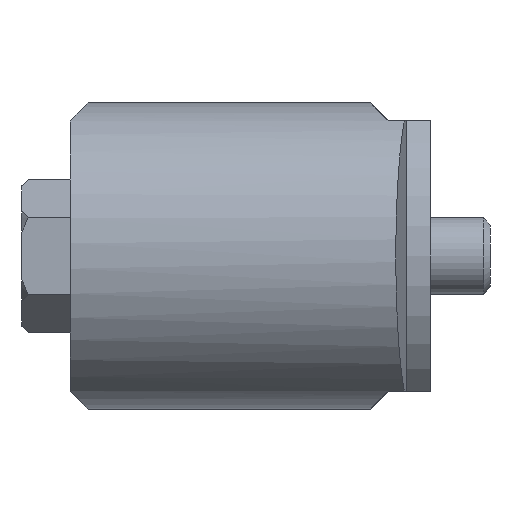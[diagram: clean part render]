
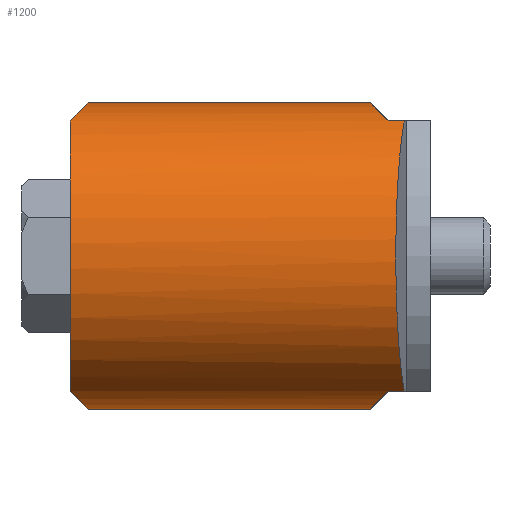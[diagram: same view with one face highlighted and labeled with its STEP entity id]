
A CAD part, left-side view. The second image highlights one B-rep face of the part: STEP entity #1200.
In plain terms, the highlighted cylindrical face has radius 12.75 mm (diameter 25.5 mm), a partial arc.
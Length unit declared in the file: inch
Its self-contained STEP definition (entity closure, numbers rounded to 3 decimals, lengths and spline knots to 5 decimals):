
#42=ELLIPSE('',#1291,0.70989,0.50197);
#43=ELLIPSE('',#1294,0.70989,0.50197);
#44=ELLIPSE('',#1297,0.70989,0.50197);
#45=ELLIPSE('',#1299,0.70989,0.50197);
#46=ELLIPSE('',#1303,0.50473,0.50197);
#112=FACE_OUTER_BOUND('',#180,.T.);
#180=EDGE_LOOP('',(#818,#819,#820,#821,#822,#823,#824,#825,#826,#827));
#255=LINE('',#1845,#324);
#268=LINE('',#1875,#337);
#277=LINE('',#1900,#346);
#278=LINE('',#1902,#347);
#324=VECTOR('',#1469,0.3937);
#337=VECTOR('',#1488,0.3937);
#346=VECTOR('',#1515,0.3937);
#347=VECTOR('',#1518,0.3937);
#397=CIRCLE('',#1305,0.50197);
#479=VERTEX_POINT('',#1835);
#480=VERTEX_POINT('',#1836);
#483=VERTEX_POINT('',#1844);
#488=VERTEX_POINT('',#1856);
#489=VERTEX_POINT('',#1857);
#496=VERTEX_POINT('',#1872);
#497=VERTEX_POINT('',#1874);
#499=VERTEX_POINT('',#1880);
#501=VERTEX_POINT('',#1886);
#502=VERTEX_POINT('',#1887);
#603=EDGE_CURVE('',#479,#480,#42,.T.);
#607=EDGE_CURVE('',#480,#483,#255,.T.);
#613=EDGE_CURVE('',#488,#489,#43,.T.);
#621=EDGE_CURVE('',#497,#496,#268,.T.);
#624=EDGE_CURVE('',#496,#499,#44,.T.);
#627=EDGE_CURVE('',#501,#502,#45,.T.);
#633=EDGE_CURVE('',#483,#497,#46,.T.);
#634=EDGE_CURVE('',#499,#501,#277,.T.);
#635=EDGE_CURVE('',#488,#502,#397,.T.);
#636=EDGE_CURVE('',#479,#489,#278,.T.);
#818=ORIENTED_EDGE('',*,*,#603,.T.);
#819=ORIENTED_EDGE('',*,*,#607,.T.);
#820=ORIENTED_EDGE('',*,*,#633,.T.);
#821=ORIENTED_EDGE('',*,*,#621,.T.);
#822=ORIENTED_EDGE('',*,*,#624,.T.);
#823=ORIENTED_EDGE('',*,*,#634,.T.);
#824=ORIENTED_EDGE('',*,*,#627,.T.);
#825=ORIENTED_EDGE('',*,*,#635,.F.);
#826=ORIENTED_EDGE('',*,*,#613,.T.);
#827=ORIENTED_EDGE('',*,*,#636,.F.);
#1102=CYLINDRICAL_SURFACE('',#1304,0.50197);
#1200=ADVANCED_FACE('',(#112),#1102,.T.);
#1291=AXIS2_PLACEMENT_3D('',#1837,#1462,#1463);
#1294=AXIS2_PLACEMENT_3D('',#1858,#1477,#1478);
#1297=AXIS2_PLACEMENT_3D('',#1881,#1493,#1494);
#1299=AXIS2_PLACEMENT_3D('',#1888,#1499,#1500);
#1303=AXIS2_PLACEMENT_3D('',#1898,#1511,#1512);
#1304=AXIS2_PLACEMENT_3D('',#1899,#1513,#1514);
#1305=AXIS2_PLACEMENT_3D('',#1901,#1516,#1517);
#1462=DIRECTION('center_axis',(0.,0.707,0.707));
#1463=DIRECTION('ref_axis',(0.,-0.707,0.707));
#1469=DIRECTION('',(0.,-1.,0.));
#1477=DIRECTION('center_axis',(0.,-0.707,0.707));
#1478=DIRECTION('ref_axis',(0.,0.707,0.707));
#1488=DIRECTION('',(0.,1.,0.));
#1493=DIRECTION('center_axis',(0.,0.707,-0.707));
#1494=DIRECTION('ref_axis',(0.,0.707,0.707));
#1499=DIRECTION('center_axis',(0.,-0.707,-0.707));
#1500=DIRECTION('ref_axis',(0.,-0.707,0.707));
#1511=DIRECTION('center_axis',(0.105,0.995,0.));
#1512=DIRECTION('ref_axis',(-0.995,0.105,0.));
#1513=DIRECTION('center_axis',(0.,-1.,0.));
#1514=DIRECTION('ref_axis',(0.,0.,1.));
#1515=DIRECTION('',(0.,1.,0.));
#1516=DIRECTION('center_axis',(0.,1.,0.));
#1517=DIRECTION('ref_axis',(0.,0.,1.));
#1518=DIRECTION('',(0.,1.,0.));
#1835=CARTESIAN_POINT('',(-0.65997,-0.4875,-0.50197));
#1836=CARTESIAN_POINT('',(-0.89619,-0.54655,-0.44291));
#1837=CARTESIAN_POINT('Origin',(-0.65997,-0.98947,0.));
#1844=CARTESIAN_POINT('',(-0.89619,-0.60002,-0.44291));
#1845=CARTESIAN_POINT('',(-0.89619,0.49675,-0.44291));
#1856=CARTESIAN_POINT('',(-0.89619,0.49675,-0.44291));
#1857=CARTESIAN_POINT('',(-0.65997,0.4377,-0.50197));
#1858=CARTESIAN_POINT('Origin',(-0.65997,0.93967,0.));
#1872=CARTESIAN_POINT('',(-0.89619,-0.54655,0.44291));
#1874=CARTESIAN_POINT('',(-0.89619,-0.60002,0.44291));
#1875=CARTESIAN_POINT('',(-0.89619,0.49675,0.44291));
#1880=CARTESIAN_POINT('',(-0.65997,-0.4875,0.50197));
#1881=CARTESIAN_POINT('Origin',(-0.65997,-0.98947,0.));
#1886=CARTESIAN_POINT('',(-0.65997,0.4377,0.50197));
#1887=CARTESIAN_POINT('',(-0.89619,0.49675,0.44291));
#1888=CARTESIAN_POINT('Origin',(-0.65997,0.93967,0.));
#1898=CARTESIAN_POINT('Origin',(-0.65997,-0.62485,0.));
#1899=CARTESIAN_POINT('Origin',(-0.65997,0.49675,0.));
#1900=CARTESIAN_POINT('',(-0.65997,0.49675,0.50197));
#1901=CARTESIAN_POINT('Origin',(-0.65997,0.49675,0.));
#1902=CARTESIAN_POINT('',(-0.65997,0.49675,-0.50197));
